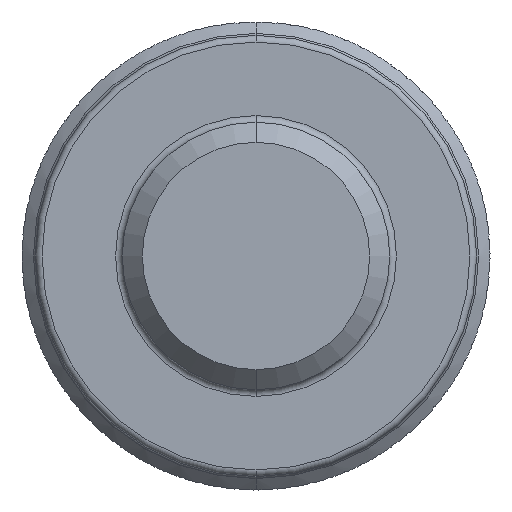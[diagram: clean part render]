
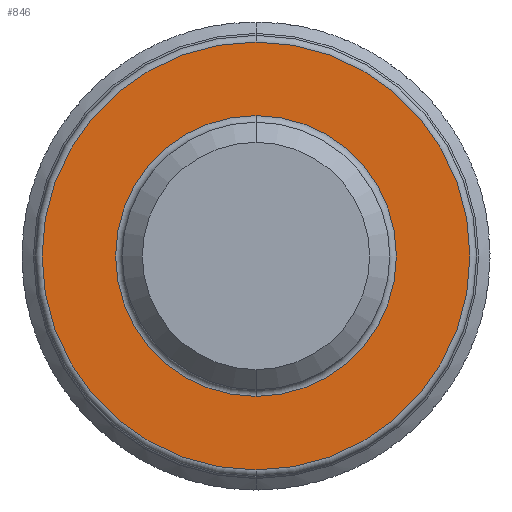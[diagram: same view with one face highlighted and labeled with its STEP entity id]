
A CAD part, front view. The second image highlights one B-rep face of the part: STEP entity #846.
In plain terms, the highlighted planar face has unit normal (0, -1, 0).
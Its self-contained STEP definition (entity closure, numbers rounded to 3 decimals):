
#135 = DIRECTION ( 'NONE',  ( 0., -1., 0. ) ) ;
#341 = CARTESIAN_POINT ( 'NONE',  ( 0., -4., 0. ) ) ;
#368 = CARTESIAN_POINT ( 'NONE',  ( 0., -4., 0. ) ) ;
#765 = CARTESIAN_POINT ( 'NONE',  ( 0., -4., 0. ) ) ;
#846 = ADVANCED_FACE ( 'NONE', ( #3360, #2405 ), #4734, .T. ) ;
#853 = DIRECTION ( 'NONE',  ( 0., 0., -1. ) ) ;
#966 = DIRECTION ( 'NONE',  ( 0., 0., -1. ) ) ;
#1414 = ORIENTED_EDGE ( 'NONE', *, *, #4973, .T. ) ;
#1457 = EDGE_CURVE ( 'NONE', #5192, #9707, #4759, .T. ) ;
#1670 = CARTESIAN_POINT ( 'NONE',  ( 0., -4., 0. ) ) ;
#1928 = VERTEX_POINT ( 'NONE', #3034 ) ;
#1995 = VERTEX_POINT ( 'NONE', #4714 ) ;
#2007 = AXIS2_PLACEMENT_3D ( 'NONE', #341, #3410, #8792 ) ;
#2405 = FACE_OUTER_BOUND ( 'NONE', #7843, .T. ) ;
#2536 = DIRECTION ( 'NONE',  ( 0., 1., 0. ) ) ;
#2733 = CIRCLE ( 'NONE', #8410, 2.1 ) ;
#2980 = AXIS2_PLACEMENT_3D ( 'NONE', #765, #3782, #6879 ) ;
#3034 = CARTESIAN_POINT ( 'NONE',  ( 0., -4., -2.1 ) ) ;
#3360 = FACE_BOUND ( 'NONE', #5403, .T. ) ;
#3410 = DIRECTION ( 'NONE',  ( 0., -1., 0. ) ) ;
#3561 = EDGE_CURVE ( 'NONE', #1995, #1928, #2733, .T. ) ;
#3782 = DIRECTION ( 'NONE',  ( 0., 1., 0. ) ) ;
#4273 = AXIS2_PLACEMENT_3D ( 'NONE', #1670, #6264, #966 ) ;
#4309 = ORIENTED_EDGE ( 'NONE', *, *, #3561, .T. ) ;
#4610 = ORIENTED_EDGE ( 'NONE', *, *, #1457, .T. ) ;
#4714 = CARTESIAN_POINT ( 'NONE',  ( 0., -4., 2.1 ) ) ;
#4734 = PLANE ( 'NONE',  #5098 ) ;
#4759 = CIRCLE ( 'NONE', #2007, 3.2 ) ;
#4778 = CIRCLE ( 'NONE', #4273, 3.2 ) ;
#4790 = CARTESIAN_POINT ( 'NONE',  ( 2., -4., 0. ) ) ;
#4973 = EDGE_CURVE ( 'NONE', #1928, #1995, #5727, .T. ) ;
#5098 = AXIS2_PLACEMENT_3D ( 'NONE', #4790, #135, #853 ) ;
#5192 = VERTEX_POINT ( 'NONE', #9702 ) ;
#5403 = EDGE_LOOP ( 'NONE', ( #1414, #4309 ) ) ;
#5472 = ORIENTED_EDGE ( 'NONE', *, *, #7366, .T. ) ;
#5572 = DIRECTION ( 'NONE',  ( 0., 0., -1. ) ) ;
#5727 = CIRCLE ( 'NONE', #2980, 2.1 ) ;
#6264 = DIRECTION ( 'NONE',  ( 0., -1., 0. ) ) ;
#6879 = DIRECTION ( 'NONE',  ( 0., 0., -1. ) ) ;
#7366 = EDGE_CURVE ( 'NONE', #9707, #5192, #4778, .T. ) ;
#7843 = EDGE_LOOP ( 'NONE', ( #4610, #5472 ) ) ;
#8410 = AXIS2_PLACEMENT_3D ( 'NONE', #368, #2536, #5572 ) ;
#8792 = DIRECTION ( 'NONE',  ( 0., 0., -1. ) ) ;
#8920 = CARTESIAN_POINT ( 'NONE',  ( 0., -4., 3.2 ) ) ;
#9702 = CARTESIAN_POINT ( 'NONE',  ( 0., -4., -3.2 ) ) ;
#9707 = VERTEX_POINT ( 'NONE', #8920 ) ;
